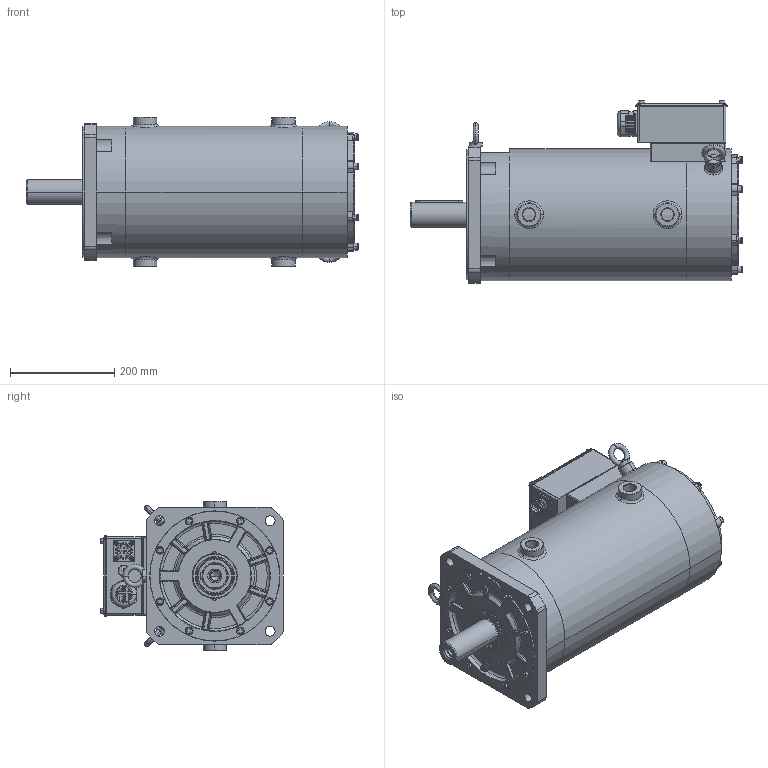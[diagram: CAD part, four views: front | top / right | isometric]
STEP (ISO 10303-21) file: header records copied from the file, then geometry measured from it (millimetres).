
FILE_DESCRIPTION((''),'2;1');
FILE_NAME('11101-02133_SW0001','2026-03-10T10:03:55',('01002423'),(''),'CREO PARAMETRIC BY PTC INC, 2019080','CREO PARAMETRIC BY PTC INC, 2019080','');
FILE_SCHEMA(('CONFIG_CONTROL_DESIGN'));
Length unit declared in the file: millimetre
Products named in the file (1): 11101-02133_SW0001
Bounding box: 637 x 350.5 x 287 mm (x, y, z)
Surface area: 1598155.5 mm2 (no closed solid volume)
Topology: 0 solids, 100 shells, 1579 faces, 5580 edges, 4091 vertices
Faces by surface type: plane 654, cylinder 518, bspline 158, cone 131, torus 94, sphere 24
Entity records: 84634 total; most frequent: CARTESIAN_POINT 37403, DIRECTION 9757, ORIENTED_EDGE 8945, EDGE_CURVE 5558, VERTEX_POINT 4091, AXIS2_PLACEMENT_3D 3298, VECTOR 3161, LINE 3161
